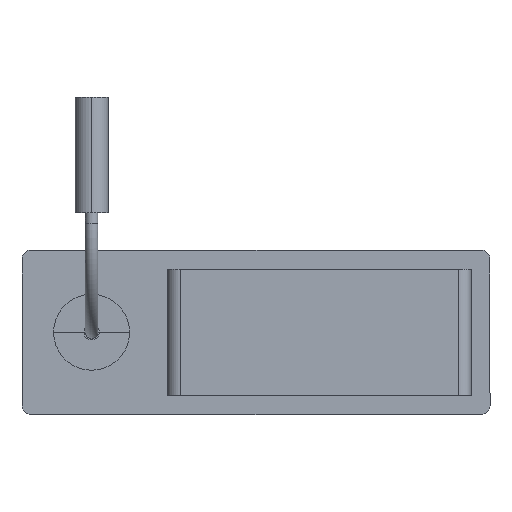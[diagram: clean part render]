
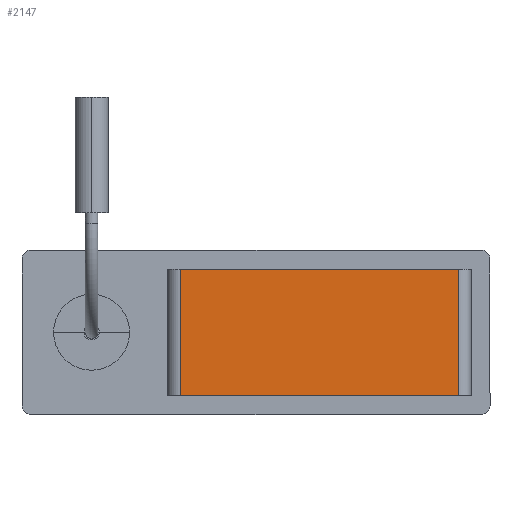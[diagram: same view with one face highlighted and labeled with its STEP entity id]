
A CAD part, top view. The second image highlights one B-rep face of the part: STEP entity #2147.
In plain terms, the highlighted planar face has unit normal (0, 0, 1).
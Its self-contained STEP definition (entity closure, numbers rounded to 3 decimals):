
#112=PLANE('',#2334);
#222=FACE_OUTER_BOUND('',#354,.T.);
#354=EDGE_LOOP('',(#1673,#1674,#1675,#1676));
#508=LINE('',#3469,#716);
#509=LINE('',#3471,#717);
#510=LINE('',#3473,#718);
#511=LINE('',#3474,#719);
#716=VECTOR('',#2734,304.8);
#717=VECTOR('',#2735,304.8);
#718=VECTOR('',#2736,304.8);
#719=VECTOR('',#2737,304.8);
#1015=VERTEX_POINT('',#3467);
#1016=VERTEX_POINT('',#3468);
#1017=VERTEX_POINT('',#3470);
#1018=VERTEX_POINT('',#3472);
#1257=EDGE_CURVE('',#1015,#1016,#508,.T.);
#1258=EDGE_CURVE('',#1017,#1015,#509,.T.);
#1259=EDGE_CURVE('',#1018,#1017,#510,.T.);
#1260=EDGE_CURVE('',#1016,#1018,#511,.T.);
#1673=ORIENTED_EDGE('',*,*,#1257,.F.);
#1674=ORIENTED_EDGE('',*,*,#1258,.F.);
#1675=ORIENTED_EDGE('',*,*,#1259,.F.);
#1676=ORIENTED_EDGE('',*,*,#1260,.F.);
#2147=ADVANCED_FACE('',(#222),#112,.T.);
#2334=AXIS2_PLACEMENT_3D('',#3466,#2732,#2733);
#2732=DIRECTION('center_axis',(0.,0.,1.));
#2733=DIRECTION('ref_axis',(-1.,0.,0.));
#2734=DIRECTION('',(0.,-1.,0.));
#2735=DIRECTION('',(1.,0.,0.));
#2736=DIRECTION('',(0.,1.,0.));
#2737=DIRECTION('',(-1.,0.,0.));
#3466=CARTESIAN_POINT('Origin',(50.,160.,51.));
#3467=CARTESIAN_POINT('',(50.,160.,51.));
#3468=CARTESIAN_POINT('',(50.,-60.,51.));
#3469=CARTESIAN_POINT('',(50.,160.,51.));
#3470=CARTESIAN_POINT('',(-50.,160.,51.));
#3471=CARTESIAN_POINT('',(-50.,160.,51.));
#3472=CARTESIAN_POINT('',(-50.,-60.,51.));
#3473=CARTESIAN_POINT('',(-50.,-60.,51.));
#3474=CARTESIAN_POINT('',(50.,-60.,51.));
